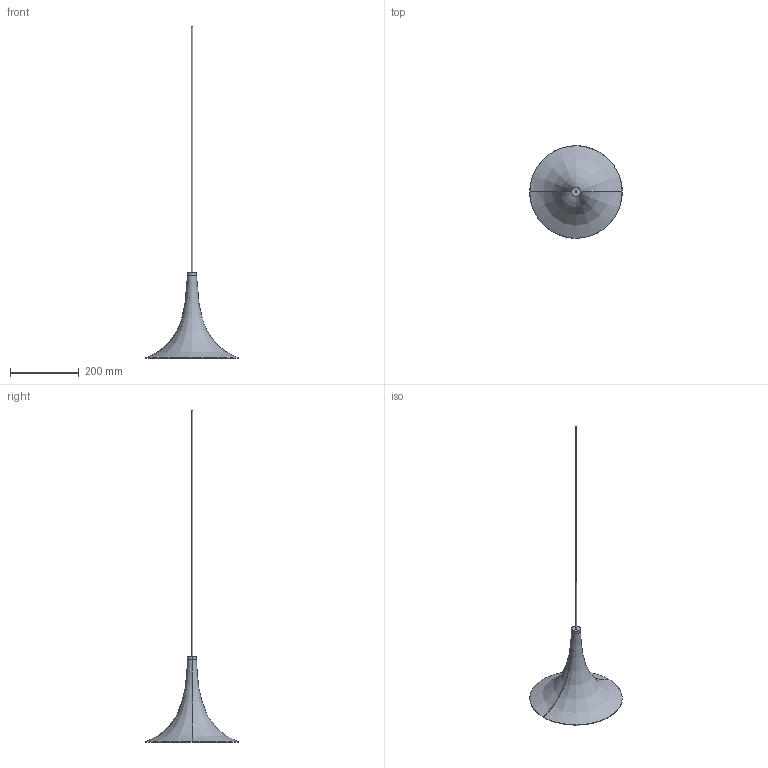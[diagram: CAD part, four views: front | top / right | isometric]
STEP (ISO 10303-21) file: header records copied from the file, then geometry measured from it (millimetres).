
FILE_DESCRIPTION(/* description */ (''),/* implementation_level */ '2;1');
FILE_NAME(/* name */ 'DAROET~1',/* time_stamp */ '2017-05-22T07:14:56+02:00',/* author */ (''),/* organization */ (''),/* preprocessor_version */ 'ST-DEVELOPER v15',/* originating_system */ '',/* authorisation */ '');
FILE_SCHEMA (('AUTOMOTIVE_DESIGN'));
Length unit declared in the file: millimetre
Products named in the file (1): Document
Bounding box: 270.08 x 269.59 x 968.98 mm (x, y, z)
Volume: 154868.2 mm3; surface area: 192380.3 mm2
Topology: 3 solids, 3 shells, 16 faces, 28 edges, 16 vertices
Faces by surface type: bspline 12, plane 4
Entity records: 841 total; most frequent: CARTESIAN_POINT 642, ORIENTED_EDGE 56, EDGE_CURVE 28, ADVANCED_FACE 16, FACE_OUTER_BOUND 16, EDGE_LOOP 16, VERTEX_POINT 16, B_SPLINE_CURVE_WITH_KNOTS 8
